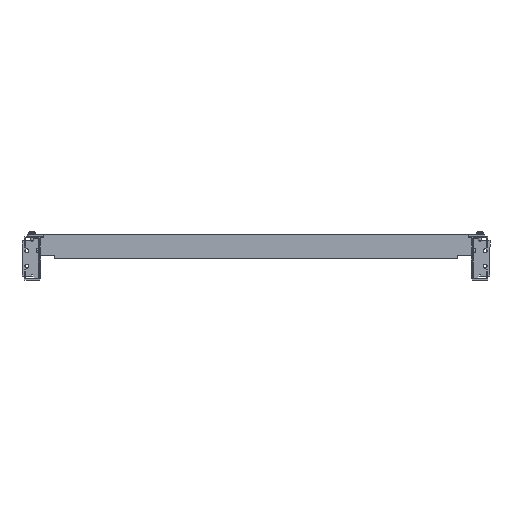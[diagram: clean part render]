
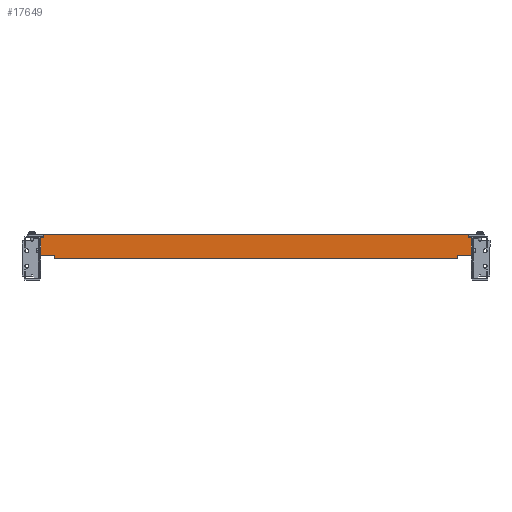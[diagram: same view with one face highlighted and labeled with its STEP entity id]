
A CAD part, left-side view. The second image highlights one B-rep face of the part: STEP entity #17649.
In plain terms, the highlighted planar face has unit normal (-1, 0, 0).
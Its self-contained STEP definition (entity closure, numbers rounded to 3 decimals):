
#1 = VECTOR ( 'NONE', #13099, 1000. ) ;
#148 = EDGE_CURVE ( 'NONE', #4076, #12913, #2116, .T. ) ;
#188 = CARTESIAN_POINT ( 'NONE',  ( 73., 0., 5.5 ) ) ;
#329 = CARTESIAN_POINT ( 'NONE',  ( 73., -448.25, 38.5 ) ) ;
#434 = DIRECTION ( 'NONE',  ( 0., 0., 1. ) ) ;
#540 = EDGE_CURVE ( 'NONE', #6629, #18440, #3247, .T. ) ;
#698 = CARTESIAN_POINT ( 'NONE',  ( 73., 253.25, 33.5 ) ) ;
#699 = CARTESIAN_POINT ( 'NONE',  ( 73., 248.25, 19.5 ) ) ;
#881 = DIRECTION ( 'NONE',  ( 0., 0., 1. ) ) ;
#1823 = DIRECTION ( 'NONE',  ( 0., -1., 0. ) ) ;
#1858 = LINE ( 'NONE', #7668, #8449 ) ;
#1882 = CARTESIAN_POINT ( 'NONE',  ( 73., 229.25, 5.5 ) ) ;
#2116 = LINE ( 'NONE', #10849, #16125 ) ;
#2284 = VERTEX_POINT ( 'NONE', #6052 ) ;
#2303 = CARTESIAN_POINT ( 'NONE',  ( 73., 0., 0.5 ) ) ;
#2597 = EDGE_CURVE ( 'NONE', #6629, #11191, #10023, .T. ) ;
#2627 = CARTESIAN_POINT ( 'NONE',  ( 73., 0., 38.5 ) ) ;
#2636 = LINE ( 'NONE', #8440, #6133 ) ;
#2669 = VECTOR ( 'NONE', #8605, 1000. ) ;
#2698 = ORIENTED_EDGE ( 'NONE', *, *, #540, .T. ) ;
#2844 = LINE ( 'NONE', #188, #1 ) ;
#2882 = AXIS2_PLACEMENT_3D ( 'NONE', #4222, #4027, #8491 ) ;
#3102 = LINE ( 'NONE', #4644, #9452 ) ;
#3247 = LINE ( 'NONE', #14836, #3698 ) ;
#3698 = VECTOR ( 'NONE', #1823, 1000. ) ;
#4027 = DIRECTION ( 'NONE',  ( 1., 0., 0. ) ) ;
#4076 = VERTEX_POINT ( 'NONE', #12210 ) ;
#4222 = CARTESIAN_POINT ( 'NONE',  ( 73., 0., 19.5 ) ) ;
#4262 = VECTOR ( 'NONE', #9570, 1000. ) ;
#4390 = EDGE_CURVE ( 'NONE', #18440, #10764, #10554, .T. ) ;
#4590 = VECTOR ( 'NONE', #8251, 1000. ) ;
#4644 = CARTESIAN_POINT ( 'NONE',  ( 73., 248.25, 33.5 ) ) ;
#4836 = EDGE_CURVE ( 'NONE', #15759, #13564, #2844, .T. ) ;
#4894 = LINE ( 'NONE', #2303, #8998 ) ;
#5064 = EDGE_CURVE ( 'NONE', #9267, #2284, #18563, .T. ) ;
#5071 = LINE ( 'NONE', #16637, #7327 ) ;
#5134 = ORIENTED_EDGE ( 'NONE', *, *, #5064, .T. ) ;
#5295 = CARTESIAN_POINT ( 'NONE',  ( 73., -429.25, 0.5 ) ) ;
#5409 = ORIENTED_EDGE ( 'NONE', *, *, #5773, .F. ) ;
#5428 = DIRECTION ( 'NONE',  ( 0., -1., 0. ) ) ;
#5557 = CARTESIAN_POINT ( 'NONE',  ( 73., -429.25, 11.903 ) ) ;
#5773 = EDGE_CURVE ( 'NONE', #12913, #10764, #2636, .T. ) ;
#5836 = CARTESIAN_POINT ( 'NONE',  ( 73., -453.25, 33.5 ) ) ;
#6052 = CARTESIAN_POINT ( 'NONE',  ( 73., 248.25, 38.5 ) ) ;
#6133 = VECTOR ( 'NONE', #14220, 1000. ) ;
#6370 = ORIENTED_EDGE ( 'NONE', *, *, #4836, .T. ) ;
#6536 = LINE ( 'NONE', #10810, #4262 ) ;
#6629 = VERTEX_POINT ( 'NONE', #15867 ) ;
#6803 = ORIENTED_EDGE ( 'NONE', *, *, #14024, .F. ) ;
#7087 = CARTESIAN_POINT ( 'NONE',  ( 73., -448.25, 5.5 ) ) ;
#7141 = CARTESIAN_POINT ( 'NONE',  ( 73., 248.25, 5.5 ) ) ;
#7327 = VECTOR ( 'NONE', #11037, 1000. ) ;
#7526 = ORIENTED_EDGE ( 'NONE', *, *, #15620, .T. ) ;
#7537 = EDGE_CURVE ( 'NONE', #15759, #14541, #13448, .T. ) ;
#7668 = CARTESIAN_POINT ( 'NONE',  ( 73., 253.25, 19.5 ) ) ;
#7673 = VERTEX_POINT ( 'NONE', #16287 ) ;
#8251 = DIRECTION ( 'NONE',  ( 0., 1., 0. ) ) ;
#8440 = CARTESIAN_POINT ( 'NONE',  ( 73., -453.25, 19.5 ) ) ;
#8449 = VECTOR ( 'NONE', #434, 1000. ) ;
#8490 = VECTOR ( 'NONE', #13030, 1000. ) ;
#8491 = DIRECTION ( 'NONE',  ( 0., 0., -1. ) ) ;
#8589 = PLANE ( 'NONE',  #2882 ) ;
#8605 = DIRECTION ( 'NONE',  ( 0., 0., -1. ) ) ;
#8606 = ORIENTED_EDGE ( 'NONE', *, *, #148, .F. ) ;
#8764 = CARTESIAN_POINT ( 'NONE',  ( 73., 229.25, 0.5 ) ) ;
#8906 = CARTESIAN_POINT ( 'NONE',  ( 73., 0., 5.5 ) ) ;
#8989 = ORIENTED_EDGE ( 'NONE', *, *, #7537, .F. ) ;
#8998 = VECTOR ( 'NONE', #18153, 1000. ) ;
#9006 = DIRECTION ( 'NONE',  ( 0., 1., 0. ) ) ;
#9267 = VERTEX_POINT ( 'NONE', #329 ) ;
#9284 = ORIENTED_EDGE ( 'NONE', *, *, #4390, .T. ) ;
#9452 = VECTOR ( 'NONE', #9006, 1000. ) ;
#9497 = EDGE_CURVE ( 'NONE', #11191, #13384, #4894, .T. ) ;
#9498 = ORIENTED_EDGE ( 'NONE', *, *, #16780, .T. ) ;
#9526 = CARTESIAN_POINT ( 'NONE',  ( 73., 253.25, 5.5 ) ) ;
#9570 = DIRECTION ( 'NONE',  ( 0., 0., -1. ) ) ;
#10023 = LINE ( 'NONE', #5557, #2669 ) ;
#10085 = CARTESIAN_POINT ( 'NONE',  ( 73., -453.25, 5.5 ) ) ;
#10385 = CARTESIAN_POINT ( 'NONE',  ( 73., -448.25, 5.5 ) ) ;
#10554 = LINE ( 'NONE', #10385, #8490 ) ;
#10602 = DIRECTION ( 'NONE',  ( 0., 1., 0. ) ) ;
#10764 = VERTEX_POINT ( 'NONE', #10085 ) ;
#10810 = CARTESIAN_POINT ( 'NONE',  ( 73., 229.25, 11.903 ) ) ;
#10849 = CARTESIAN_POINT ( 'NONE',  ( 73., 0., 33.5 ) ) ;
#11037 = DIRECTION ( 'NONE',  ( 0., 0., 1. ) ) ;
#11191 = VERTEX_POINT ( 'NONE', #5295 ) ;
#11575 = VECTOR ( 'NONE', #881, 1000. ) ;
#12210 = CARTESIAN_POINT ( 'NONE',  ( 73., -448.25, 33.5 ) ) ;
#12695 = EDGE_CURVE ( 'NONE', #13564, #13384, #6536, .T. ) ;
#12758 = FACE_OUTER_BOUND ( 'NONE', #15570, .T. ) ;
#12913 = VERTEX_POINT ( 'NONE', #5836 ) ;
#13030 = DIRECTION ( 'NONE',  ( 0., -1., 0. ) ) ;
#13048 = VERTEX_POINT ( 'NONE', #698 ) ;
#13099 = DIRECTION ( 'NONE',  ( 0., -1., 0. ) ) ;
#13384 = VERTEX_POINT ( 'NONE', #8764 ) ;
#13448 = LINE ( 'NONE', #8906, #16182 ) ;
#13557 = ORIENTED_EDGE ( 'NONE', *, *, #2597, .F. ) ;
#13564 = VERTEX_POINT ( 'NONE', #1882 ) ;
#13912 = ORIENTED_EDGE ( 'NONE', *, *, #15591, .F. ) ;
#14024 = EDGE_CURVE ( 'NONE', #14541, #13048, #1858, .T. ) ;
#14220 = DIRECTION ( 'NONE',  ( 0., 0., -1. ) ) ;
#14541 = VERTEX_POINT ( 'NONE', #9526 ) ;
#14836 = CARTESIAN_POINT ( 'NONE',  ( 73., 0., 5.5 ) ) ;
#15570 = EDGE_LOOP ( 'NONE', ( #6370, #16454, #17816, #13557, #2698, #9284, #5409, #8606, #7526, #5134, #13912, #9498, #6803, #8989 ) ) ;
#15591 = EDGE_CURVE ( 'NONE', #7673, #2284, #16729, .T. ) ;
#15620 = EDGE_CURVE ( 'NONE', #4076, #9267, #5071, .T. ) ;
#15759 = VERTEX_POINT ( 'NONE', #7141 ) ;
#15867 = CARTESIAN_POINT ( 'NONE',  ( 73., -429.25, 5.5 ) ) ;
#16125 = VECTOR ( 'NONE', #5428, 1000. ) ;
#16182 = VECTOR ( 'NONE', #10602, 1000. ) ;
#16287 = CARTESIAN_POINT ( 'NONE',  ( 73., 248.25, 33.5 ) ) ;
#16454 = ORIENTED_EDGE ( 'NONE', *, *, #12695, .T. ) ;
#16637 = CARTESIAN_POINT ( 'NONE',  ( 73., -448.25, 33.5 ) ) ;
#16729 = LINE ( 'NONE', #699, #11575 ) ;
#16780 = EDGE_CURVE ( 'NONE', #7673, #13048, #3102, .T. ) ;
#17649 = ADVANCED_FACE ( 'NONE', ( #12758 ), #8589, .F. ) ;
#17816 = ORIENTED_EDGE ( 'NONE', *, *, #9497, .F. ) ;
#18153 = DIRECTION ( 'NONE',  ( 0., 1., 0. ) ) ;
#18440 = VERTEX_POINT ( 'NONE', #7087 ) ;
#18563 = LINE ( 'NONE', #2627, #4590 ) ;
